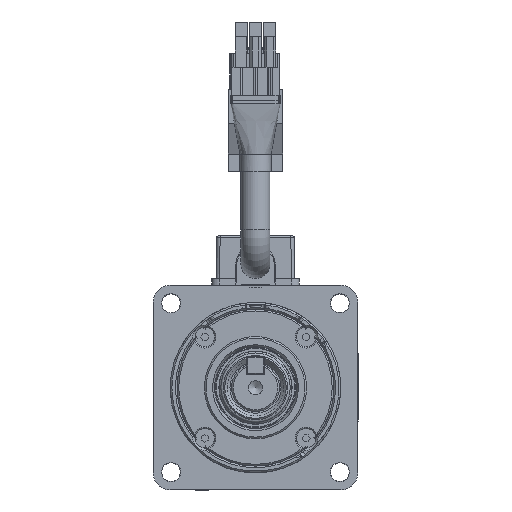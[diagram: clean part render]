
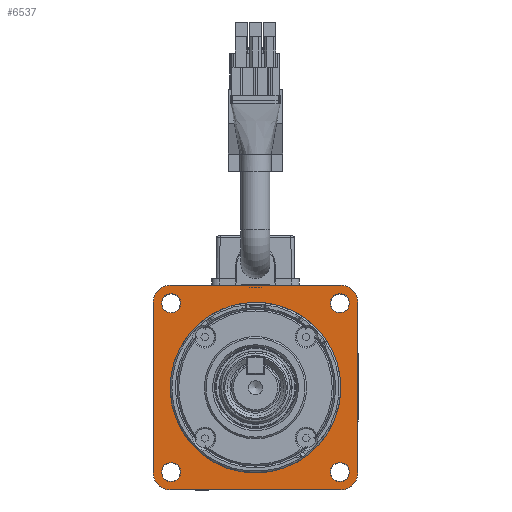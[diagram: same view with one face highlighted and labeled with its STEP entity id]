
A CAD part, front view. The second image highlights one B-rep face of the part: STEP entity #6537.
In plain terms, the highlighted planar face has unit normal (0, -1, 0).
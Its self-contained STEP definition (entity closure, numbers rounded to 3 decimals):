
#6537 = ADVANCED_FACE( '', ( #13250, #13251, #13252, #13253, #13254, #13255 ), #13256, .T. );
#13250 = FACE_OUTER_BOUND( '', #28077, .T. );
#13251 = FACE_BOUND( '', #28078, .T. );
#13252 = FACE_BOUND( '', #28079, .T. );
#13253 = FACE_BOUND( '', #28080, .T. );
#13254 = FACE_BOUND( '', #28081, .T. );
#13255 = FACE_BOUND( '', #28082, .T. );
#13256 = PLANE( '', #28083 );
#28077 = EDGE_LOOP( '', ( #47321, #47322, #47323, #47324, #47325, #47326, #47327, #47328 ) );
#28078 = EDGE_LOOP( '', ( #47329 ) );
#28079 = EDGE_LOOP( '', ( #47330 ) );
#28080 = EDGE_LOOP( '', ( #47331 ) );
#28081 = EDGE_LOOP( '', ( #47332 ) );
#28082 = EDGE_LOOP( '', ( #47333 ) );
#28083 = AXIS2_PLACEMENT_3D( '', #47334, #47335, #47336 );
#47321 = ORIENTED_EDGE( '', *, *, #55353, .F. );
#47322 = ORIENTED_EDGE( '', *, *, #58749, .F. );
#47323 = ORIENTED_EDGE( '', *, *, #54218, .F. );
#47324 = ORIENTED_EDGE( '', *, *, #58750, .F. );
#47325 = ORIENTED_EDGE( '', *, *, #58751, .F. );
#47326 = ORIENTED_EDGE( '', *, *, #53492, .F. );
#47327 = ORIENTED_EDGE( '', *, *, #56035, .F. );
#47328 = ORIENTED_EDGE( '', *, *, #56315, .F. );
#47329 = ORIENTED_EDGE( '', *, *, #58752, .T. );
#47330 = ORIENTED_EDGE( '', *, *, #58548, .T. );
#47331 = ORIENTED_EDGE( '', *, *, #54722, .T. );
#47332 = ORIENTED_EDGE( '', *, *, #52851, .T. );
#47333 = ORIENTED_EDGE( '', *, *, #56254, .F. );
#47334 = CARTESIAN_POINT( '', ( 0., 0.7, 25. ) );
#47335 = DIRECTION( '', ( 0., -1., 0. ) );
#47336 = DIRECTION( '', ( 0., 0., -1. ) );
#52851 = EDGE_CURVE( '', #60976, #60976, #60977, .F. );
#53492 = EDGE_CURVE( '', #62108, #62110, #62111, .T. );
#54218 = EDGE_CURVE( '', #63358, #63361, #63362, .F. );
#54722 = EDGE_CURVE( '', #64204, #64204, #64205, .F. );
#55353 = EDGE_CURVE( '', #65200, #65202, #65203, .F. );
#56035 = EDGE_CURVE( '', #66221, #62108, #66223, .F. );
#56254 = EDGE_CURVE( '', #66550, #66550, #66551, .T. );
#56315 = EDGE_CURVE( '', #65202, #66221, #66640, .T. );
#58548 = EDGE_CURVE( '', #69597, #69597, #69598, .F. );
#58749 = EDGE_CURVE( '', #63361, #65200, #69829, .T. );
#58750 = EDGE_CURVE( '', #69830, #63358, #69831, .T. );
#58751 = EDGE_CURVE( '', #62110, #69830, #69832, .F. );
#58752 = EDGE_CURVE( '', #69833, #69833, #69834, .F. );
#60976 = VERTEX_POINT( '', #72472 );
#60977 = CIRCLE( '', #72473, 2.816 );
#62108 = VERTEX_POINT( '', #74607 );
#62110 = VERTEX_POINT( '', #74610 );
#62111 = LINE( '', #74611, #74612 );
#63358 = VERTEX_POINT( '', #76713 );
#63361 = VERTEX_POINT( '', #76717 );
#63362 = CIRCLE( '', #76718, 5. );
#64204 = VERTEX_POINT( '', #78246 );
#64205 = CIRCLE( '', #78247, 2.816 );
#65200 = VERTEX_POINT( '', #81024 );
#65202 = VERTEX_POINT( '', #81027 );
#65203 = CIRCLE( '', #81028, 5. );
#66221 = VERTEX_POINT( '', #83036 );
#66223 = CIRCLE( '', #83039, 5. );
#66550 = VERTEX_POINT( '', #83910 );
#66551 = CIRCLE( '', #83911, 25. );
#66640 = LINE( '', #84069, #84070 );
#69597 = VERTEX_POINT( '', #90571 );
#69598 = CIRCLE( '', #90572, 2.816 );
#69829 = LINE( '', #90996, #90997 );
#69830 = VERTEX_POINT( '', #90998 );
#69831 = LINE( '', #90999, #91000 );
#69832 = CIRCLE( '', #91001, 5. );
#69833 = VERTEX_POINT( '', #91002 );
#69834 = CIRCLE( '', #91003, 2.816 );
#72472 = CARTESIAN_POINT( '', ( -24.749, 0.7, -27.565 ) );
#72473 = AXIS2_PLACEMENT_3D( '', #93424, #93425, #93426 );
#74607 = CARTESIAN_POINT( '', ( 25., 0.7, -30. ) );
#74610 = CARTESIAN_POINT( '', ( -25., 0.7, -30. ) );
#74611 = CARTESIAN_POINT( '', ( -30., 0.7, -30. ) );
#74612 = VECTOR( '', #94168, 1000. );
#76713 = CARTESIAN_POINT( '', ( -30., 0.7, 25. ) );
#76717 = CARTESIAN_POINT( '', ( -25., 0.7, 30. ) );
#76718 = AXIS2_PLACEMENT_3D( '', #95080, #95081, #95082 );
#78246 = CARTESIAN_POINT( '', ( 24.749, 0.7, -27.565 ) );
#78247 = AXIS2_PLACEMENT_3D( '', #95694, #95695, #95696 );
#81024 = CARTESIAN_POINT( '', ( 25., 0.7, 30. ) );
#81027 = CARTESIAN_POINT( '', ( 30., 0.7, 25. ) );
#81028 = AXIS2_PLACEMENT_3D( '', #96360, #96361, #96362 );
#83036 = CARTESIAN_POINT( '', ( 30., 0.7, -25. ) );
#83039 = AXIS2_PLACEMENT_3D( '', #97056, #97057, #97058 );
#83910 = CARTESIAN_POINT( '', ( 0., 0.7, -25. ) );
#83911 = AXIS2_PLACEMENT_3D( '', #97273, #97274, #97275 );
#84069 = CARTESIAN_POINT( '', ( 30., 0.7, -30. ) );
#84070 = VECTOR( '', #97326, 1000. );
#90571 = CARTESIAN_POINT( '', ( 24.749, 0.7, 21.932 ) );
#90572 = AXIS2_PLACEMENT_3D( '', #99456, #99457, #99458 );
#90996 = CARTESIAN_POINT( '', ( 30., 0.7, 30. ) );
#90997 = VECTOR( '', #99598, 1000. );
#90998 = CARTESIAN_POINT( '', ( -30., 0.7, -25. ) );
#90999 = CARTESIAN_POINT( '', ( -30., 0.7, 30. ) );
#91000 = VECTOR( '', #99599, 1000. );
#91001 = AXIS2_PLACEMENT_3D( '', #99600, #99601, #99602 );
#91002 = CARTESIAN_POINT( '', ( -24.749, 0.7, 21.932 ) );
#91003 = AXIS2_PLACEMENT_3D( '', #99603, #99604, #99605 );
#93424 = CARTESIAN_POINT( '', ( -24.749, 0.7, -24.749 ) );
#93425 = DIRECTION( '', ( 0., -1., 0. ) );
#93426 = DIRECTION( '', ( 0., 0., -1. ) );
#94168 = DIRECTION( '', ( -1., 0., 0. ) );
#95080 = CARTESIAN_POINT( '', ( -25., 0.7, 25. ) );
#95081 = DIRECTION( '', ( 0., -1., 0. ) );
#95082 = DIRECTION( '', ( 0., 0., -1. ) );
#95694 = CARTESIAN_POINT( '', ( 24.749, 0.7, -24.749 ) );
#95695 = DIRECTION( '', ( 0., -1., 0. ) );
#95696 = DIRECTION( '', ( 0., 0., -1. ) );
#96360 = CARTESIAN_POINT( '', ( 25., 0.7, 25. ) );
#96361 = DIRECTION( '', ( 0., -1., 0. ) );
#96362 = DIRECTION( '', ( 0., 0., -1. ) );
#97056 = CARTESIAN_POINT( '', ( 25., 0.7, -25. ) );
#97057 = DIRECTION( '', ( 0., -1., 0. ) );
#97058 = DIRECTION( '', ( 0., 0., -1. ) );
#97273 = CARTESIAN_POINT( '', ( 0., 0.7, 0. ) );
#97274 = DIRECTION( '', ( 0., -1., 0. ) );
#97275 = DIRECTION( '', ( 0., 0., -1. ) );
#97326 = DIRECTION( '', ( 0., 0., -1. ) );
#99456 = CARTESIAN_POINT( '', ( 24.749, 0.7, 24.749 ) );
#99457 = DIRECTION( '', ( 0., -1., 0. ) );
#99458 = DIRECTION( '', ( 0., 0., -1. ) );
#99598 = DIRECTION( '', ( 1., 0., 0. ) );
#99599 = DIRECTION( '', ( 0., 0., 1. ) );
#99600 = CARTESIAN_POINT( '', ( -25., 0.7, -25. ) );
#99601 = DIRECTION( '', ( 0., -1., 0. ) );
#99602 = DIRECTION( '', ( 0., 0., -1. ) );
#99603 = CARTESIAN_POINT( '', ( -24.749, 0.7, 24.749 ) );
#99604 = DIRECTION( '', ( 0., -1., 0. ) );
#99605 = DIRECTION( '', ( 0., 0., -1. ) );
